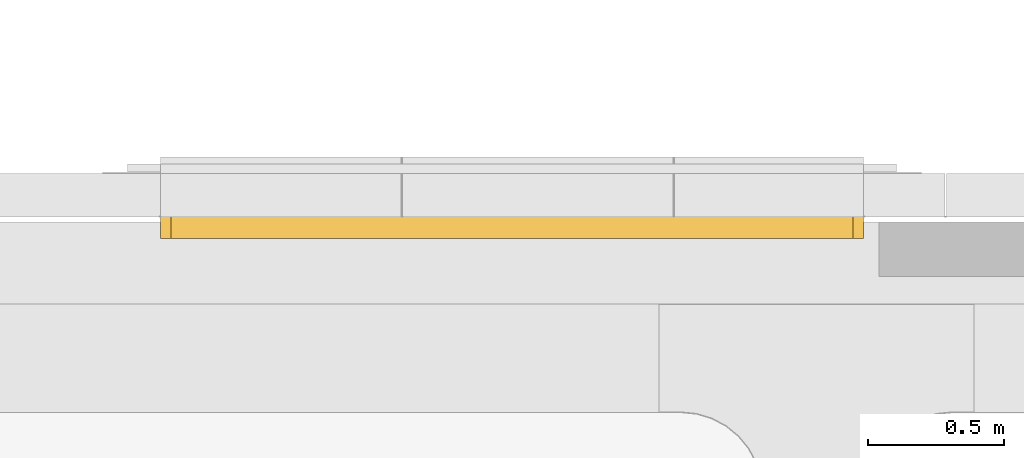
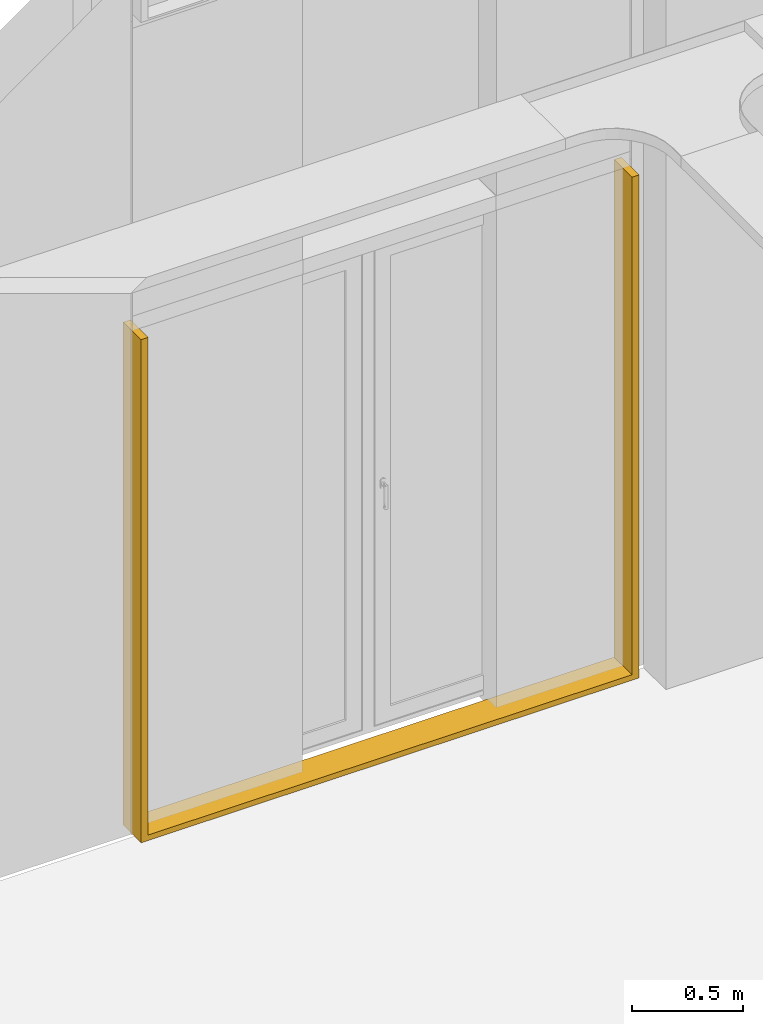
# One storey, part 232 of 302: 1 curtain wall, 1 opening, 1 element without a shape of its own.
"""IFC2X3 building model written with IfcOpenShell, lengths in metres."""

from ifc_helpers import new_model, entity, si_unit, converted_unit, derived_unit, direction, frame, frame_2d, origin, place, context, subcontext, project, spatial, rectangle, extrude, faceted_brep, material, layer, layer_set, layer_usage, type_object, element, aggregate, save


model = new_model("IFC2X3")

# Units and contexts
model_context = context("Model", 3, precision=1e-05, world=origin(), true_north=direction((6.12303176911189e-17, 1.0)))
body_context = subcontext(model_context, "Body", "Model", "MODEL_VIEW")
ifc_project = project(units=[si_unit("LENGTHUNIT", "METRE"), si_unit("AREAUNIT", "SQUARE_METRE"), si_unit("VOLUMEUNIT", "CUBIC_METRE"), converted_unit("PLANEANGLEUNIT", "DEGREE", entity("IfcRatioMeasure", 0.0174532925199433), si_unit("PLANEANGLEUNIT", "RADIAN"), dimensions=[0, 0, 0, 0, 0, 0, 0]), si_unit("MASSUNIT", "GRAM", prefix="KILO"), derived_unit("MASSDENSITYUNIT", [(si_unit("MASSUNIT", "GRAM", prefix="KILO"), 1), (si_unit("LENGTHUNIT", "METRE"), -3)]), derived_unit("MOMENTOFINERTIAUNIT", [(si_unit("LENGTHUNIT", "METRE"), 4)]), si_unit("TIMEUNIT", "SECOND"), si_unit("FREQUENCYUNIT", "HERTZ"), si_unit("THERMODYNAMICTEMPERATUREUNIT", "DEGREE_CELSIUS"), derived_unit("THERMALTRANSMITTANCEUNIT", [(si_unit("MASSUNIT", "GRAM", prefix="KILO"), 1), (si_unit("THERMODYNAMICTEMPERATUREUNIT", "KELVIN"), -1), (si_unit("TIMEUNIT", "SECOND"), -3)]), derived_unit("VOLUMETRICFLOWRATEUNIT", [(si_unit("LENGTHUNIT", "METRE"), 3), (si_unit("TIMEUNIT", "SECOND"), -1)]), si_unit("ELECTRICCURRENTUNIT", "AMPERE"), si_unit("ELECTRICVOLTAGEUNIT", "VOLT"), si_unit("POWERUNIT", "WATT"), si_unit("FORCEUNIT", "NEWTON", prefix="KILO"), si_unit("ILLUMINANCEUNIT", "LUX"), si_unit("LUMINOUSFLUXUNIT", "LUMEN"), si_unit("LUMINOUSINTENSITYUNIT", "CANDELA"), derived_unit("USERDEFINED", [(si_unit("MASSUNIT", "GRAM", prefix="KILO"), -1), (si_unit("LENGTHUNIT", "METRE"), -2), (si_unit("TIMEUNIT", "SECOND"), 3), (si_unit("LUMINOUSFLUXUNIT", "LUMEN"), 1)]), derived_unit("LINEARVELOCITYUNIT", [(si_unit("LENGTHUNIT", "METRE"), 1), (si_unit("TIMEUNIT", "SECOND"), -1)]), si_unit("PRESSUREUNIT", "PASCAL"), derived_unit("USERDEFINED", [(si_unit("LENGTHUNIT", "METRE"), -2), (si_unit("MASSUNIT", "GRAM", prefix="KILO"), 1), (si_unit("TIMEUNIT", "SECOND"), -2)]), derived_unit("LINEARFORCEUNIT", [(si_unit("MASSUNIT", "GRAM", prefix="KILO"), 1), (si_unit("LENGTHUNIT", "METRE"), 1), (si_unit("TIMEUNIT", "SECOND"), -2), (si_unit("LENGTHUNIT", "METRE"), -1)]), derived_unit("PLANARFORCEUNIT", [(si_unit("MASSUNIT", "GRAM", prefix="KILO"), 1), (si_unit("LENGTHUNIT", "METRE"), 1), (si_unit("TIMEUNIT", "SECOND"), -2), (si_unit("LENGTHUNIT", "METRE"), -2)])], contexts=[model_context])

# Site, building, storey
site_placement = place(None, origin())
site = spatial("IfcSite", under=ifc_project, at=site_placement, Name="Default", CompositionType="ELEMENT")
building_placement = place(site_placement, origin())
building = spatial("IfcBuilding", under=site, at=building_placement, CompositionType="ELEMENT")
storey_placement = place(building_placement, frame((0.0, 0.0, -1.3)))
storey = spatial("IfcBuildingStorey", under=building, at=storey_placement, Name="00_EG", CompositionType="ELEMENT", Elevation=-1.3)

# Curtain walls, opening
curtain_wall_type_1 = type_object("IfcCurtainWallType", Name="Fassade:Curtain Wall 1", PredefinedType="NOTDEFINED")
curtain_wall_1_placement = place(storey_placement, frame((0.0, 0.0, 1.3)))
curtain_wall_1 = element("IfcCurtainWall", 1, at=curtain_wall_1_placement, inside=storey, type_object=curtain_wall_type_1, Name="Fassade:Curtain Wall 1", ObjectType="Fassade:Curtain Wall 1")
ifc_material_1 = material(Name="Prepainted_Steel-ArcelorMittal_Construction_HAIRULTRA-35-CORAL-4309-[RAL_3000]")
ifc_layer_1 = layer(ifc_material_1, 0.015)
ifc_material_2 = material(Name="ArcelorMittal-MineralWool")
ifc_layer_2 = layer(ifc_material_2, 0.13)
ifc_material_3 = material(Name="Prepainted_Steel-ArcelorMittal_Construction_INTÉRIEUR-12-WHITE-912")
ifc_layer_3 = layer(ifc_material_3, 0.015)
ifc_layer_set = layer_set([ifc_layer_1, ifc_layer_2, ifc_layer_3], Name="Fassade:Sandwichpaneele 16cm")
ifc_layer_usage = layer_usage(ifc_layer_set, "AXIS2", "POSITIVE", -0.08)
curtain_wall_type_2 = type_object("IfcCurtainWallType", Name="Basiswand:Sandwichpaneele d = 16cm aussen", PredefinedType="NOTDEFINED", material=ifc_layer_set)
curtain_wall_2_placement = place(storey_placement, frame((-219.912611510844, 45.578088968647, 1.27), z_axis=(0.0, 0.0, 1.0), x_axis=(-1.0, 0.0, 0.0)))
curtain_wall_2 = element("IfcCurtainWall", 2, at=curtain_wall_2_placement, type_object=curtain_wall_type_2, material=ifc_layer_usage, Name="Basiswand:Sandwichpaneele d = 16cm aussen", ObjectType="Basiswand:Sandwichpaneele d = 16cm aussen", context=body_context, shape_type="SweptSolid", body=[
    extrude(rectangle(XDim=2.58500000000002, YDim=0.159999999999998, at=frame_2d((1.29250000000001, 0.0), x_axis=(-1.0, 0.0))), origin(), (0.0, 0.0, 1.0), 2.75999999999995),
])
opening_placement = place(curtain_wall_2_placement, frame((2.54750000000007, 0.0799999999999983, 0.0199999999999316), z_axis=(0.0, 0.0, 1.0), x_axis=(-1.0, 0.0, 0.0)))
element("IfcOpeningElement", 3, at=opening_placement, cuts=curtain_wall_2, Name="Basiswand:Sandwichpaneele d = 16cm aussen", ObjectType="Opening", context=body_context, shape_type="Brep", body=[
    faceted_brep([(2.51000000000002, 0.0, 2.74000000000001), (2.51000000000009, 0.320000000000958, 2.74000000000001), (0.0, 0.320000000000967, 2.74000000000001), (0.0, 0.0, 2.74000000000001), (0.0, 0.267099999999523, 0.0100000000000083), (2.51000000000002, 0.267100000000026, 0.0100000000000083), (2.51000000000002, 0.0, 0.0100000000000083), (0.0, 0.0, 0.0100000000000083), (0.0, 0.320000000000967, 0.0), (2.51000000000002, 0.320000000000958, 0.0)], [[[0, 1, 2, 3]], [[4, 5, 6, 7]], [[2, 8, 4, 7, 3]], [[3, 7, 6, 0]], [[0, 6, 5, 9, 1]], [[1, 9, 8, 2]], [[9, 5, 4, 8]]]),
])
aggregate(curtain_wall_1, [curtain_wall_2])

save(model, "model.ifc")
